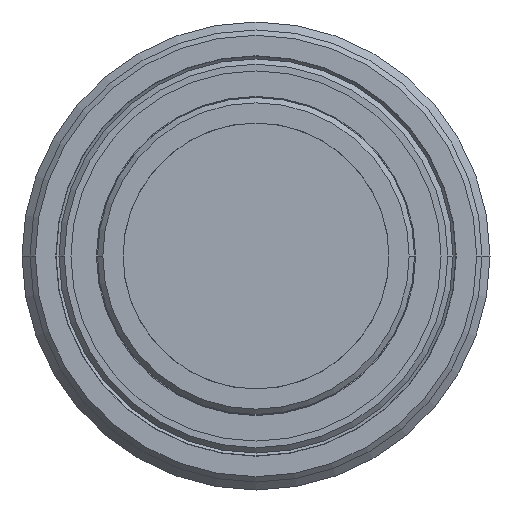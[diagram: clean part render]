
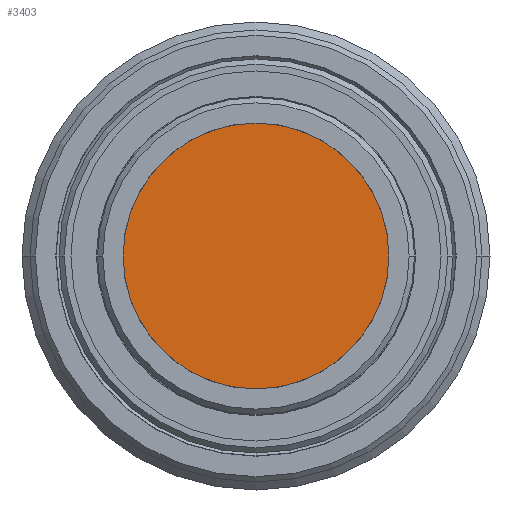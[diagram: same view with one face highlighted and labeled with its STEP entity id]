
A CAD part, left-side view. The second image highlights one B-rep face of the part: STEP entity #3403.
In plain terms, the highlighted planar face has unit normal (-1, 0, 0) by its records, which use the part's own axes.
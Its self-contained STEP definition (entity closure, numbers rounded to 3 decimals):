
#3346=CARTESIAN_POINT('',(7.,-32.75,0.));
#3347=DIRECTION('',(-1.,0.,0.));
#3348=DIRECTION('',(0.,1.,0.));
#3349=AXIS2_PLACEMENT_3D('',#3346,#3347,#3348);
#3351=CARTESIAN_POINT('',(7.,-32.75,0.));
#3352=DIRECTION('',(1.,0.,0.));
#3353=DIRECTION('',(0.,1.,0.));
#3354=AXIS2_PLACEMENT_3D('',#3351,#3352,#3353);
#3357=CARTESIAN_POINT('',(7.,4.84,0.));
#3359=VERTEX_POINT('',#3357);
#3361=CARTESIAN_POINT('',(7.,-70.34,0.));
#3363=VERTEX_POINT('',#3361);
#3394=CARTESIAN_POINT('',(7.,-32.75,0.));
#3395=DIRECTION('',(-1.,0.,0.));
#3396=DIRECTION('',(0.,1.,0.));
#3397=AXIS2_PLACEMENT_3D('',#3394,#3395,#3396);
#3398=PLANE('',#3397);
#3399=ORIENTED_EDGE('',*,*,#3386,.F.);
#3400=ORIENTED_EDGE('',*,*,#3375,.T.);
#3401=EDGE_LOOP('',(#3399,#3400));
#3402=FACE_OUTER_BOUND('',#3401,.F.);
#3403=ADVANCED_FACE('',(#3402),#3398,.T.);
#3350=CIRCLE('',#3349,37.59);
#3355=CIRCLE('',#3354,37.59);
#3375=EDGE_CURVE('',#3359,#3363,#3355,.T.);
#3386=EDGE_CURVE('',#3359,#3363,#3350,.T.);
